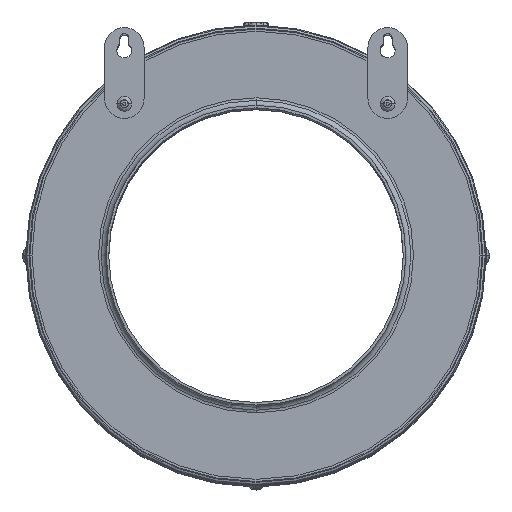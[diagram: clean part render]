
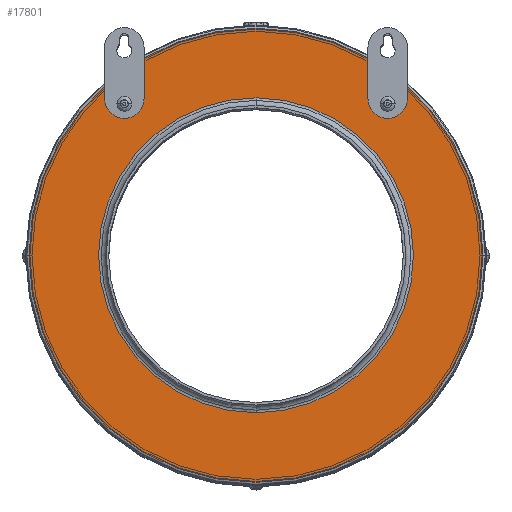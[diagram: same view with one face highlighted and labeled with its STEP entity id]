
A CAD part, top view. The second image highlights one B-rep face of the part: STEP entity #17801.
In plain terms, the highlighted planar face has unit normal (0, 0, 1).
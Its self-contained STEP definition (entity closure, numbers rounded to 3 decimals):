
#16955=CARTESIAN_POINT('',(342.321,734.109,657.3));
#16956=DIRECTION('',(0.,0.,-1.));
#16957=DIRECTION('',(1.,0.,0.));
#16958=AXIS2_PLACEMENT_3D('',#16955,#16956,#16957);
#16960=CARTESIAN_POINT('',(342.321,734.109,657.3));
#16961=DIRECTION('',(0.,0.,-1.));
#16962=DIRECTION('',(-1.,0.,0.));
#16963=AXIS2_PLACEMENT_3D('',#16960,#16961,#16962);
#16965=CARTESIAN_POINT('',(429.281,834.146,657.3));
#16966=DIRECTION('',(0.,0.,1.));
#16967=DIRECTION('',(1.,0.,0.));
#16968=AXIS2_PLACEMENT_3D('',#16965,#16966,#16967);
#16970=CARTESIAN_POINT('',(429.281,834.146,657.3));
#16971=DIRECTION('',(0.,0.,1.));
#16972=DIRECTION('',(-1.,0.,0.));
#16973=AXIS2_PLACEMENT_3D('',#16970,#16971,#16972);
#16975=CARTESIAN_POINT('',(255.36,834.146,657.3));
#16976=DIRECTION('',(0.,0.,1.));
#16977=DIRECTION('',(1.,0.,0.));
#16978=AXIS2_PLACEMENT_3D('',#16975,#16976,#16977);
#16980=CARTESIAN_POINT('',(255.36,834.146,657.3));
#16981=DIRECTION('',(0.,0.,1.));
#16982=DIRECTION('',(-1.,0.,0.));
#16983=AXIS2_PLACEMENT_3D('',#16980,#16981,#16982);
#16985=CARTESIAN_POINT('',(342.321,734.109,657.3));
#16986=DIRECTION('',(0.,0.,1.));
#16987=DIRECTION('',(0.,-1.,0.));
#16988=AXIS2_PLACEMENT_3D('',#16985,#16986,#16987);
#16990=CARTESIAN_POINT('',(342.321,734.109,657.3));
#16991=DIRECTION('',(0.,0.,1.));
#16992=DIRECTION('',(0.,1.,0.));
#16993=AXIS2_PLACEMENT_3D('',#16990,#16991,#16992);
#17195=CARTESIAN_POINT('',(342.321,734.109,657.3));
#17196=DIRECTION('',(0.,0.,-1.));
#17197=DIRECTION('',(0.,-1.,0.));
#17198=AXIS2_PLACEMENT_3D('',#17195,#17196,#17197);
#17215=CARTESIAN_POINT('',(342.321,734.109,657.3));
#17216=DIRECTION('',(0.,0.,-1.));
#17217=DIRECTION('',(0.,1.,0.));
#17218=AXIS2_PLACEMENT_3D('',#17215,#17216,#17217);
#17435=CARTESIAN_POINT('',(426.681,834.146,657.3));
#17436=CARTESIAN_POINT('',(431.881,834.146,657.3));
#17437=VERTEX_POINT('',#17435);
#17438=VERTEX_POINT('',#17436);
#17439=CARTESIAN_POINT('',(492.321,734.109,657.3));
#17440=CARTESIAN_POINT('',(192.321,734.109,657.3));
#17441=VERTEX_POINT('',#17439);
#17442=VERTEX_POINT('',#17440);
#17443=CARTESIAN_POINT('',(257.96,834.146,657.3));
#17444=CARTESIAN_POINT('',(252.76,834.146,657.3));
#17445=VERTEX_POINT('',#17443);
#17446=VERTEX_POINT('',#17444);
#17447=CARTESIAN_POINT('',(342.321,630.109,657.3));
#17448=CARTESIAN_POINT('',(341.649,630.111,657.3));
#17449=VERTEX_POINT('',#17447);
#17450=VERTEX_POINT('',#17448);
#17451=CARTESIAN_POINT('',(342.992,838.107,657.3));
#17452=VERTEX_POINT('',#17451);
#17453=CARTESIAN_POINT('',(342.321,838.109,657.3));
#17454=VERTEX_POINT('',#17453);
#17769=CARTESIAN_POINT('',(342.321,734.109,657.3));
#17770=DIRECTION('',(0.,0.,1.));
#17771=DIRECTION('',(0.,-1.,0.));
#17772=AXIS2_PLACEMENT_3D('',#17769,#17770,#17771);
#17773=PLANE('',#17772);
#17775=ORIENTED_EDGE('',*,*,#17774,.T.);
#17777=ORIENTED_EDGE('',*,*,#17776,.T.);
#17778=EDGE_LOOP('',(#17775,#17777));
#17779=FACE_OUTER_BOUND('',#17778,.F.);
#17781=ORIENTED_EDGE('',*,*,#17780,.T.);
#17782=ORIENTED_EDGE('',*,*,#17759,.T.);
#17783=EDGE_LOOP('',(#17781,#17782));
#17784=FACE_BOUND('',#17783,.F.);
#17786=ORIENTED_EDGE('',*,*,#17785,.T.);
#17788=ORIENTED_EDGE('',*,*,#17787,.T.);
#17789=EDGE_LOOP('',(#17786,#17788));
#17790=FACE_BOUND('',#17789,.F.);
#17792=ORIENTED_EDGE('',*,*,#17791,.F.);
#17794=ORIENTED_EDGE('',*,*,#17793,.T.);
#17796=ORIENTED_EDGE('',*,*,#17795,.F.);
#17798=ORIENTED_EDGE('',*,*,#17797,.T.);
#17799=EDGE_LOOP('',(#17792,#17794,#17796,#17798));
#17800=FACE_BOUND('',#17799,.F.);
#17801=ADVANCED_FACE('',(#17779,#17784,#17790,#17800),#17773,.T.);
#16959=CIRCLE('',#16958,150.);
#16964=CIRCLE('',#16963,150.);
#16969=CIRCLE('',#16968,2.6);
#16974=CIRCLE('',#16973,2.6);
#16979=CIRCLE('',#16978,2.6);
#16984=CIRCLE('',#16983,2.6);
#16989=CIRCLE('',#16988,104.);
#16994=CIRCLE('',#16993,104.);
#17199=CIRCLE('',#17198,104.);
#17219=CIRCLE('',#17218,104.);
#17759=EDGE_CURVE('',#17437,#17438,#16974,.T.);
#17774=EDGE_CURVE('',#17441,#17442,#16959,.T.);
#17776=EDGE_CURVE('',#17442,#17441,#16964,.T.);
#17780=EDGE_CURVE('',#17438,#17437,#16969,.T.);
#17785=EDGE_CURVE('',#17445,#17446,#16979,.T.);
#17787=EDGE_CURVE('',#17446,#17445,#16984,.T.);
#17791=EDGE_CURVE('',#17449,#17450,#17199,.T.);
#17793=EDGE_CURVE('',#17449,#17452,#16989,.T.);
#17795=EDGE_CURVE('',#17454,#17452,#17219,.T.);
#17797=EDGE_CURVE('',#17454,#17450,#16994,.T.);
